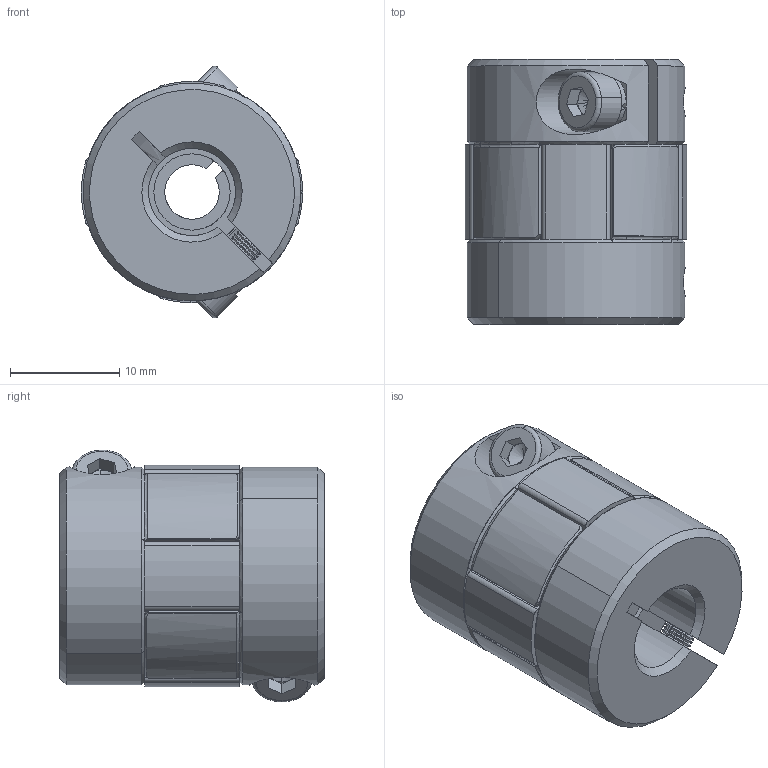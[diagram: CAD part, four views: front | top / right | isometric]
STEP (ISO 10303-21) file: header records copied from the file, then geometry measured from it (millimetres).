
FILE_DESCRIPTION (( 'STEP AP203' ), '1' );
FILE_NAME ('LF-B-D20L25-5-8.STEP', '2021-10-20T01:21:24', ( '' ), ( '' ), 'SwSTEP 2.0', 'SolidWorks 2018', '' );
FILE_SCHEMA (( 'CONFIG_CONTROL_DESIGN' ));
Length unit declared in the file: millimetre
Products named in the file (1): LF-B-D20L25-5-8
Bounding box: 20.31 x 24.3 x 23.09 mm (x, y, z)
Volume: 6496.2 mm3; surface area: 3583.4 mm2
Topology: 1 solids, 1 shells, 430 faces, 1072 edges, 635 vertices
Faces by surface type: cylinder 167, cone 158, plane 93, torus 12
Entity records: 13138 total; most frequent: CARTESIAN_POINT 2724, DIRECTION 2323, ORIENTED_EDGE 2136, EDGE_CURVE 1068, AXIS2_PLACEMENT_3D 956, VERTEX_POINT 635, CIRCLE 525, EDGE_LOOP 447
